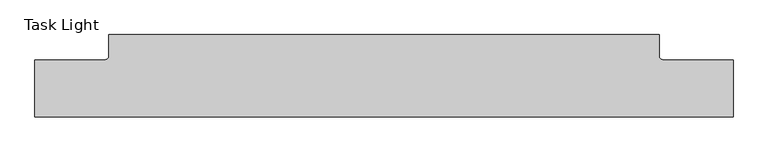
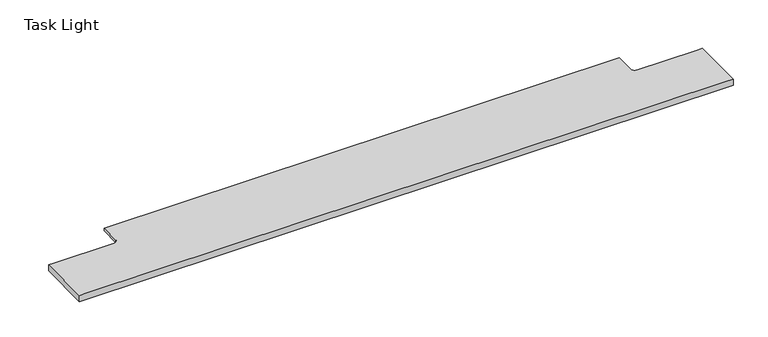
"""IFC4 building model written with IfcOpenShell, lengths in millimetres: light fixture geometry, Lighting-Horizontal-Teknion-Altos_Landscape-R2015 : Task Light."""

from ifc_helpers import new_model, si_unit, frame, origin, place, context, project, spatial, polyline, circle_curve, source, transform, mapped, element, save
from ifc_brep_helpers import plane_surface, revolved_surface, advanced_brep


def task_light_84543311(model_context):
    return source(origin(), model_context, "Body", "AdvancedBrep", [
        advanced_brep(
        [(-487.9975, 29.2199219, -2.5146), (-487.9975, 29.2199219, 2.4854), (-481.6475, 35.5699219, 2.4854), (-481.6475, 35.5699219, -2.5146), (-481.6475, 73.2394219, 2.4854), (-481.6475, 73.2394219, -2.5146), (481.6475, 35.5699219, 2.4854), (481.6475, 35.5699219, -2.5146), (481.6475, 73.2394219, -2.5146), (481.6475, 73.2394219, 2.4854), (487.9975, 29.2199219, 2.4854), (487.9975, 29.2199219, -2.5146), (-611.1875, -70.7605781, -9.5146), (-611.1875, -70.7605781, 2.4854), (-611.1875, 29.2199219, 2.4854), (-611.1875, 29.2199219, -9.5146), (611.1875, -70.7605781, 2.4854), (611.1875, -70.7605781, -9.5146), (611.1875, 29.2199219, -9.5146), (611.1875, 29.2199219, 2.4854), (-601.6625, -70.7605781, 2.4854), (601.6625, -70.7605781, 2.4854), (601.6625, 29.2199219, 2.4854), (-601.6625, 29.2199219, 2.4854), (-601.6625, -44.1493944, -9.5146), (-601.6625, -64.6562804, -9.5146), (601.6625, -64.6562804, -9.5146), (601.6625, -44.1493944, -9.5146), (-601.6625, -46.719563, 0.0773999), (601.6625, -46.719563, 0.0773999), (601.6625, -62.0861118, 0.0773999), (-601.6625, -62.0861118, 0.0773999)],
        [
            (0, 1),
            (1, 2, circle_curve(frame((-487.9975, 35.5699219, 2.4854), z_axis=(0.0, 0.0, 1.0), x_axis=(1.0, 0.0, 0.0)), 6.35)),
            (2, 3),
            (3, 0, circle_curve(frame((-487.9975, 35.5699219, -2.5146), z_axis=(0.0, 0.0, -1.0), x_axis=(1.0, 0.0, 0.0)), 6.35)),
            (2, 4),
            (4, 5),
            (5, 3),
            (6, 7),
            (7, 8),
            (8, 9),
            (9, 6),
            (10, 11),
            (11, 7, circle_curve(frame((487.9975, 35.5699219, -2.5146), z_axis=(0.0, 0.0, -1.0), x_axis=(1.0, 0.0, 0.0)), 6.35)),
            (6, 10, circle_curve(frame((487.9975, 35.5699219, 2.4854), z_axis=(0.0, 0.0, 1.0), x_axis=(1.0, 0.0, 0.0)), 6.35)),
            (12, 13),
            (13, 14),
            (14, 15),
            (15, 12),
            (16, 17),
            (17, 18),
            (18, 19),
            (19, 16),
            (13, 20),
            (20, 21),
            (21, 16),
            (19, 22),
            (22, 10),
            (9, 4),
            (1, 23),
            (23, 14),
            (8, 5),
            (11, 0),
            (18, 15),
            (17, 12),
            (24, 25),
            (25, 26),
            (26, 27),
            (27, 24),
            (28, 29),
            (29, 30),
            (30, 31),
            (31, 28),
            (30, 26),
            (25, 31),
            (29, 27),
            (24, 28),
        ],
        [
            revolved_surface(polyline([(-481.6475, 35.5699219, 2.4854000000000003), (-481.6475, 35.5699219, -2.5145999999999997)]), (-487.9975, 35.5699219, 8.9101779), (0.0, 0.0, 1.0)),
            plane_surface(frame((-481.6475, 35.5699219, 8.9101779), z_axis=(-1.0, 0.0, 0.0), x_axis=(0.0, 0.0, -1.0))),
            plane_surface(frame((481.6475, 86.3699219, 8.9101779), z_axis=(1.0, 0.0, 0.0), x_axis=(0.0, 0.0, -1.0))),
            revolved_surface(polyline([(494.3475, 35.5699219, 2.4854000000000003), (494.3475, 35.5699219, -2.5145999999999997)]), (487.9975, 35.5699219, 8.9101779), (0.0, 0.0, 1.0)),
            plane_surface(frame((-611.1875, 29.2199219, 0.0), z_axis=(-1.0, 0.0, 0.0), x_axis=(0.0, 0.0, 1.0))),
            plane_surface(frame((611.1875, 29.2199219, 0.0), z_axis=(1.0, 0.0, 0.0), x_axis=(0.0, 0.0, 1.0))),
            plane_surface(frame((-611.1875, -70.7605781, 2.4854), z_axis=(0.0, 0.0, 1.0), x_axis=(1.0, 0.0, 0.0))),
            plane_surface(frame((-611.1875, 73.2394219, 2.4854), z_axis=(0.0, 1.0, 0.0), x_axis=(1.0, 0.0, 0.0))),
            plane_surface(frame((-611.1875, 73.2394219, -2.5146), z_axis=(0.0, 0.0, -1.0), x_axis=(1.0, 0.0, 0.0))),
            plane_surface(frame((-611.1875, 29.2199219, -2.5146), z_axis=(0.0, 1.0, 0.0), x_axis=(1.0, 0.0, 0.0))),
            plane_surface(frame((-611.1875, 29.2199219, -9.5146), z_axis=(0.0, 0.0, -1.0), x_axis=(1.0, 0.0, 0.0))),
            plane_surface(frame((-611.1875, -46.719563, 0.0773999), z_axis=(0.0, 0.0, -1.0), x_axis=(1.0, 0.0, 0.0))),
            plane_surface(frame((-611.1875, -62.0861118, 0.0773999), z_axis=(0.0, 0.9659258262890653, -0.25881904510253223), x_axis=(1.0, 0.0, 0.0))),
            plane_surface(frame((-611.1875, -70.7605781, -9.5146), z_axis=(0.0, -1.0, 0.0), x_axis=(1.0, 0.0, 0.0))),
            plane_surface(frame((601.6625, -70.7605781, -9.5146), z_axis=(-1.0, 0.0, 0.0), x_axis=(0.0, 0.0, 1.0))),
            plane_surface(frame((-601.6625, 29.2199219, -9.5146), z_axis=(1.0, 0.0, 0.0), x_axis=(0.0, 0.0, 1.0))),
            plane_surface(frame((-611.1875, -44.1493944, -9.5146), z_axis=(0.0, -0.9659258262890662, -0.2588190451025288), x_axis=(1.0, 0.0, 0.0))),
        ],
        [
            (0, [[1, 2, 3, 4]]),
            (1, [[-3, 5, 6, 7]]),
            (2, [[8, 9, 10, 11]]),
            (3, [[12, 13, -8, 14]]),
            (4, [[15, 16, 17, 18]]),
            (5, [[19, 20, 21, 22]]),
            (6, [[-16, 23, 24, 25, -22, 26, 27, -14, -11, 28, -5, -2, 29, 30]]),
            (7, [[-28, -10, 31, -6]]),
            (8, [[-31, -9, -13, 32, -4, -7]]),
            (9, [[-32, -12, -27, -26, -21, 33, -17, -30, -29, -1]]),
            (10, [[-18, -33, -20, 34], [35, 36, 37, 38]]),
            (11, [[39, 40, 41, 42]]),
            (12, [[-41, 43, -36, 44]]),
            (13, [[-15, -34, -19, -25, -24, -23]]),
            (14, [[-37, -43, -40, 45]]),
            (15, [[-35, 46, -42, -44]]),
            (16, [[-39, -46, -38, -45]]),
        ],
    ),
    ])


if __name__ == "__main__":
    model = new_model("IFC4")
    model_context = context("Model", 3, world=origin())
    ifc_project = project(units=[si_unit("LENGTHUNIT", "METRE", prefix="MILLI")], contexts=[model_context])
    site = spatial("IfcSite", under=ifc_project)
    building = spatial("IfcBuilding", under=site)
    placement = place(None, origin())
    task_light_shape = task_light_84543311(model_context)
    element("IfcLightFixture", 1, ObjectType="Lighting-Horizontal-Teknion-Altos_Landscape-R2015 : Task Light", at=placement, inside=building, context=model_context, shape_type="MappedRepresentation", body=[
        mapped(task_light_shape, transform((0.0, 0.0, 0.0), x_axis=(1.0, 0.0, 0.0), y_axis=(0.0, 1.0, 0.0), z_axis=(0.0, 0.0, 1.0))),
    ])
    save(model, "model.ifc")
